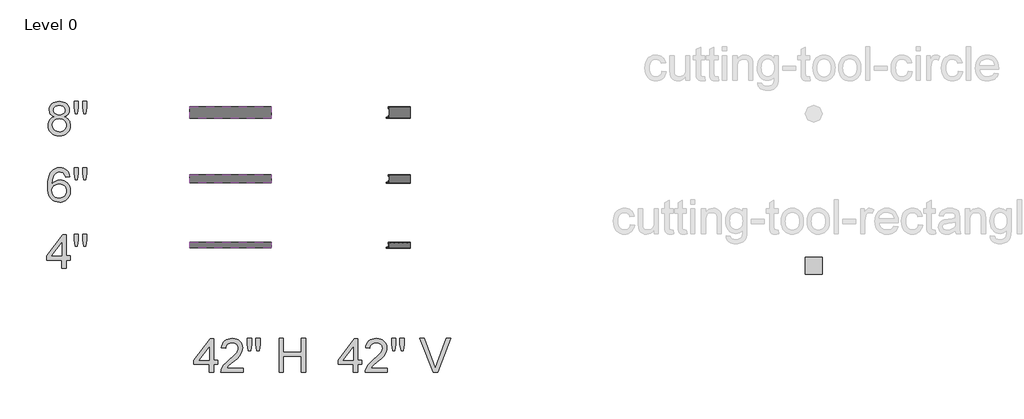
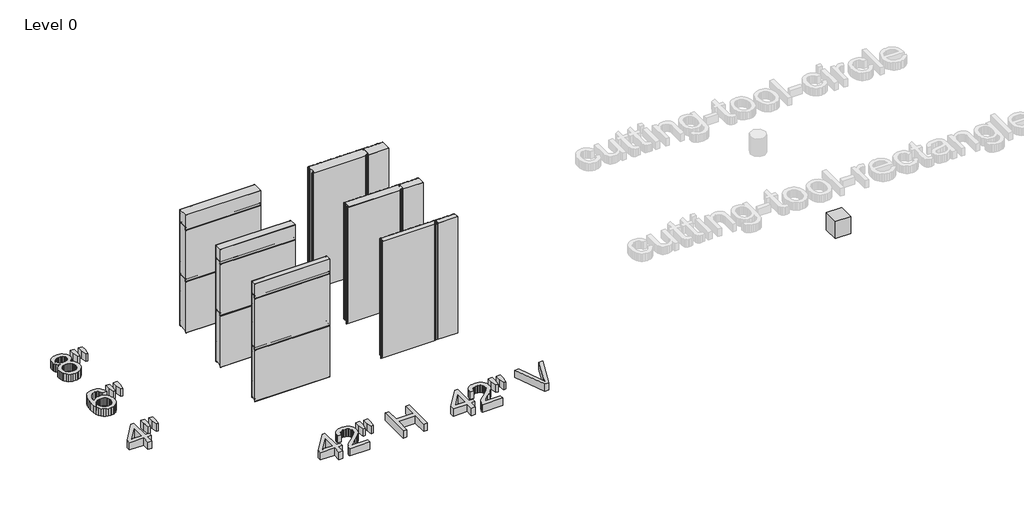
# One storey, part 1 of 3: 15 plates, 6 proxies.
"""IFC4 building model written with IfcOpenShell, lengths in millimetres."""

from ifc_helpers import new_model, si_unit, origin, origin_with_axes, place, context, project, spatial, polyline, outline, extrude, transform, mapped, element, save
from components import kingspan_ks_cutting_tool_rectangle_cutting_tool_rectangle_f435e5aa, plate_0a17265c, plate_69485673, plate_2533484a, plate_4c4554a8, plate_1017e4c0, plate_c80c6800, plate_48e6c5c1, plate_63041f73, plate_7318fa28, plate_f24b289d, plate_0e0b5b4f, plate_6cb468a7, plate_d381e52e, plate_027f6629, plate_cf5771db

model = new_model("IFC4")

# Units and contexts
model_context = context("Model", 3, world=origin())
ifc_project = project(units=[si_unit("LENGTHUNIT", "METRE", prefix="MILLI")], contexts=[model_context])

# Site, building, storey
site = spatial("IfcSite", under=ifc_project)
building = spatial("IfcBuilding", under=site)
storey = spatial("IfcBuildingStorey", under=building, Name="Level 0", Elevation=0.0)

# Proxies
placement = place(None, origin())
element("IfcBuildingElementProxy", 1, Name="24\" Arial", ObjectType="24\" Arial", at=placement, inside=storey, context=model_context, shape_type="SweptSolid", body=[
    extrude(outline(polyline([(-11480.8304674, 9099.5393595), (-11480.8304674, 9242.3051848), (-11756.8443964, 9242.3051848), (-11756.8443964, 9318.4469584), (-11461.795024, 9699.1558259), (-11404.6886939, 9699.1558259), (-11404.6886939, 9318.4469584), (-11328.5469203, 9318.4469584), (-11328.5469203, 9242.3051848), (-11404.6886939, 9242.3051848), (-11404.6886939, 9099.5393595), (-11480.8304674, 9099.5393595)]), holes=[polyline([(-11480.8304674, 9318.4469584), (-11480.8304674, 9553.7131414), (-11663.1543235, 9318.4469584), (-11480.8304674, 9318.4469584)])]), origin_with_axes(), (0.0, 0.0, 1.0), 152.4),
    extrude(outline(polyline([(-11243.3335683, 9489.7659488), (-11261.9228685, 9607.3990403), (-11261.9228685, 9708.6735476), (-11185.781095, 9708.6735476), (-11185.781095, 9607.3990403), (-11202.437108, 9489.7659488), (-11243.3335683, 9489.7659488)])), origin_with_axes(), (0.0, 0.0, 1.0), 152.4),
    extrude(outline(polyline([(-11091.4961645, 9489.7659488), (-11109.6393215, 9607.3990403), (-11109.6393215, 9708.6735476), (-11033.497548, 9708.6735476), (-11033.497548, 9607.3990403), (-11051.3432761, 9489.7659488), (-11091.4961645, 9489.7659488)])), origin_with_axes(), (0.0, 0.0, 1.0), 152.4),
])
element("IfcBuildingElementProxy", 2, Name="24\" Arial", ObjectType="24\" Arial", at=placement, inside=storey, context=model_context, shape_type="SweptSolid", body=[
    extrude(outline(polyline([(-8830.6863907, 7226.0033745), (-8830.6863907, 7368.7691999), (-9106.7003197, 7368.7691999), (-9106.7003197, 7444.9109734), (-8811.6509473, 7825.619841), (-8754.5446171, 7825.619841), (-8754.5446171, 7444.9109734), (-8678.4028436, 7444.9109734), (-8678.4028436, 7368.7691999), (-8754.5446171, 7368.7691999), (-8754.5446171, 7226.0033745), (-8830.6863907, 7226.0033745)]), holes=[polyline([(-8830.6863907, 7444.9109734), (-8830.6863907, 7680.1771564), (-9013.0102468, 7444.9109734), (-8830.6863907, 7444.9109734)])]), origin_with_axes(), (0.0, 0.0, 1.0), 152.4),
    extrude(outline(polyline([(-8221.5522025, 7302.1451481), (-8221.5522025, 7226.0033745), (-8621.2965135, 7226.0033745), (-8619.6234765, 7252.8091454), (-8613.1172214, 7278.4995582), (-8594.3420282, 7319.5261437), (-8566.8670426, 7359.3258354), (-8527.1231188, 7400.9844571), (-8471.5411113, 7447.5878326), (-8389.3764045, 7520.5694251), (-8340.0775804, 7574.441217), (-8325.6987567, 7596.4509484), (-8315.4281684, 7618.163251), (-8309.2658154, 7639.5781248), (-8307.2116977, 7660.6955698), (-8309.1496323, 7680.5628844), (-8314.9634359, 7698.8222245), (-8324.6531086, 7715.4735901), (-8338.2186504, 7730.5169813), (-8354.9071946, 7742.9764597), (-8373.9658747, 7751.8760872), (-8395.3946904, 7757.2158637), (-8419.193642, 7758.9957892), (-8444.2659606, 7757.2576896), (-8466.6893039, 7752.0433909), (-8486.463672, 7743.3528931), (-8503.5890648, 7731.1861961), (-8517.4427407, 7715.9522646), (-8527.4019583, 7698.0600632), (-8533.4667175, 7677.5095918), (-8535.6370183, 7654.3008506), (-8611.7787918, 7663.8185723), (-8605.2307108, 7703.1256475), (-8593.3196167, 7737.4693796), (-8576.0455095, 7766.8497685), (-8553.4083892, 7791.2668143), (-8525.9287563, 7810.4602667), (-8494.127111, 7824.1698756), (-8458.0034534, 7832.3956409), (-8417.5577836, 7835.1375627), (-8376.7496224, 7832.0889174), (-8340.4307771, 7822.9429818), (-8308.6012479, 7807.6997556), (-8281.2610347, 7786.359239), (-8259.3024238, 7760.5015225), (-8243.6177018, 7731.7066965), (-8234.2068686, 7699.9747611), (-8231.0699242, 7665.3057163), (-8234.4531768, 7628.8892772), (-8244.6029347, 7593.1048744), (-8262.6159666, 7556.7070247), (-8289.5890412, 7518.4502449), (-8332.5860925, 7472.7763344), (-8398.6710546, 7414.1270923), (-8486.263837, 7340.8852496), (-8520.6168637, 7302.1451481), (-8221.5522025, 7302.1451481)])), origin_with_axes(), (0.0, 0.0, 1.0), 152.4),
    extrude(outline(polyline([(-8126.8211288, 7616.2299638), (-8145.410429, 7733.8630553), (-8145.410429, 7835.1375627), (-8069.2686555, 7835.1375627), (-8069.2686555, 7733.8630553), (-8085.9246684, 7616.2299638), (-8126.8211288, 7616.2299638)])), origin_with_axes(), (0.0, 0.0, 1.0), 152.4),
    extrude(outline(polyline([(-7974.983725, 7616.2299638), (-7993.126882, 7733.8630553), (-7993.126882, 7835.1375627), (-7916.9851084, 7835.1375627), (-7916.9851084, 7733.8630553), (-7934.8308366, 7616.2299638), (-7974.983725, 7616.2299638)])), origin_with_axes(), (0.0, 0.0, 1.0), 152.4),
    extrude(outline(polyline([(-7574.3471276, 7226.0033745), (-7574.3471276, 7835.1375627), (-7498.2053541, 7835.1375627), (-7498.2053541, 7587.6767987), (-7174.6028167, 7587.6767987), (-7174.6028167, 7835.1375627), (-7098.4610431, 7835.1375627), (-7098.4610431, 7226.0033745), (-7174.6028167, 7226.0033745), (-7174.6028167, 7511.5350252), (-7498.2053541, 7511.5350252), (-7498.2053541, 7226.0033745), (-7574.3471276, 7226.0033745)])), origin_with_axes(), (0.0, 0.0, 1.0), 152.4),
])
element("IfcBuildingElementProxy", 3, Name="24\" Arial", ObjectType="24\" Arial", at=placement, inside=storey, context=model_context, shape_type="SweptSolid", body=[
    extrude(outline(polyline([(-6239.8863907, 7226.0033745), (-6239.8863907, 7368.7691999), (-6515.9003197, 7368.7691999), (-6515.9003197, 7444.9109734), (-6220.8509473, 7825.619841), (-6163.7446171, 7825.619841), (-6163.7446171, 7444.9109734), (-6087.6028436, 7444.9109734), (-6087.6028436, 7368.7691999), (-6163.7446171, 7368.7691999), (-6163.7446171, 7226.0033745), (-6239.8863907, 7226.0033745)]), holes=[polyline([(-6239.8863907, 7444.9109734), (-6239.8863907, 7680.1771564), (-6422.2102468, 7444.9109734), (-6239.8863907, 7444.9109734)])]), origin_with_axes(), (0.0, 0.0, 1.0), 152.4),
    extrude(outline(polyline([(-5630.7522025, 7302.1451481), (-5630.7522025, 7226.0033745), (-6030.4965135, 7226.0033745), (-6028.8234765, 7252.8091454), (-6022.3172214, 7278.4995582), (-6003.5420282, 7319.5261437), (-5976.0670426, 7359.3258354), (-5936.3231188, 7400.9844571), (-5880.7411113, 7447.5878326), (-5798.5764045, 7520.5694251), (-5749.2775804, 7574.441217), (-5734.8987567, 7596.4509484), (-5724.6281684, 7618.163251), (-5718.4658154, 7639.5781248), (-5716.4116977, 7660.6955698), (-5718.3496323, 7680.5628844), (-5724.1634359, 7698.8222245), (-5733.8531086, 7715.4735901), (-5747.4186504, 7730.5169813), (-5764.1071946, 7742.9764597), (-5783.1658747, 7751.8760872), (-5804.5946904, 7757.2158637), (-5828.393642, 7758.9957892), (-5853.4659606, 7757.2576896), (-5875.8893039, 7752.0433909), (-5895.663672, 7743.3528931), (-5912.7890648, 7731.1861961), (-5926.6427407, 7715.9522646), (-5936.6019583, 7698.0600632), (-5942.6667175, 7677.5095918), (-5944.8370183, 7654.3008506), (-6020.9787918, 7663.8185723), (-6014.4307108, 7703.1256475), (-6002.5196167, 7737.4693796), (-5985.2455095, 7766.8497685), (-5962.6083892, 7791.2668143), (-5935.1287563, 7810.4602667), (-5903.327111, 7824.1698756), (-5867.2034534, 7832.3956409), (-5826.7577836, 7835.1375627), (-5785.9496224, 7832.0889174), (-5749.6307771, 7822.9429818), (-5717.8012479, 7807.6997556), (-5690.4610347, 7786.359239), (-5668.5024238, 7760.5015225), (-5652.8177018, 7731.7066965), (-5643.4068686, 7699.9747611), (-5640.2699242, 7665.3057163), (-5643.6531768, 7628.8892772), (-5653.8029347, 7593.1048744), (-5671.8159666, 7556.7070247), (-5698.7890412, 7518.4502449), (-5741.7860925, 7472.7763344), (-5807.8710546, 7414.1270923), (-5895.463837, 7340.8852496), (-5929.8168637, 7302.1451481), (-5630.7522025, 7302.1451481)])), origin_with_axes(), (0.0, 0.0, 1.0), 152.4),
    extrude(outline(polyline([(-5536.0211288, 7616.2299638), (-5554.610429, 7733.8630553), (-5554.610429, 7835.1375627), (-5478.4686555, 7835.1375627), (-5478.4686555, 7733.8630553), (-5495.1246684, 7616.2299638), (-5536.0211288, 7616.2299638)])), origin_with_axes(), (0.0, 0.0, 1.0), 152.4),
    extrude(outline(polyline([(-5384.183725, 7616.2299638), (-5402.326882, 7733.8630553), (-5402.326882, 7835.1375627), (-5326.1851084, 7835.1375627), (-5326.1851084, 7733.8630553), (-5344.0308366, 7616.2299638), (-5384.183725, 7616.2299638)])), origin_with_axes(), (0.0, 0.0, 1.0), 152.4),
    extrude(outline(polyline([(-4803.6027019, 7226.0033745), (-5046.0071762, 7835.1375627), (-4964.5116842, 7835.1375627), (-4802.2642723, 7396.2813641), (-4769.3983896, 7297.3862872), (-4736.9786501, 7396.2813641), (-4574.285095, 7835.1375627), (-4492.789603, 7835.1375627), (-4724.9327836, 7226.0033745), (-4803.6027019, 7226.0033745)])), origin_with_axes(), (0.0, 0.0, 1.0), 152.4),
])
element("IfcBuildingElementProxy", 4, Name="24\" Arial", ObjectType="24\" Arial", at=placement, inside=storey, context=model_context, shape_type="SweptSolid", body=[
    extrude(outline(polyline([(-11338.064642, 10741.6722789), (-11414.2064155, 10732.1545572), (-11426.4753537, 10769.8908366), (-11443.0570094, 10795.6556066), (-11459.4248882, 10809.5139299), (-11477.5959291, 10819.4127322), (-11497.5701322, 10825.3520136), (-11519.3474973, 10827.3317741), (-11554.7415249, 10822.7216277), (-11588.0535508, 10808.8911883), (-11616.6624838, 10779.761755), (-11640.0292341, 10739.6646345), (-11649.1612278, 10714.0904048), (-11655.8115499, 10682.9486797), (-11661.6671795, 10603.9627432), (-11631.1249593, 10639.5984316), (-11594.5226272, 10664.7125762), (-11553.9050064, 10679.6026056), (-11511.3169197, 10684.5659488), (-11474.7331769, 10681.1734015), (-11440.9750078, 10670.9957596), (-11410.0424123, 10654.0330232), (-11381.9353904, 10630.2851923), (-11358.5779348, 10601.1650535), (-11341.8940379, 10568.0853939), (-11331.8836997, 10531.0462133), (-11328.5469203, 10490.0475117), (-11330.1177162, 10462.2890393), (-11334.8301038, 10435.5250943), (-11342.6840831, 10409.755677), (-11353.6796542, 10384.9807872), (-11367.4264417, 10362.1252426), (-11383.5340703, 10342.1138609), (-11402.00254, 10324.9466422), (-11422.8318508, 10310.6235865), (-11445.5758596, 10299.3352339), (-11469.7884231, 10291.272125), (-11495.4695413, 10286.4342596), (-11522.6192142, 10284.8216378), (-11568.0096379, 10289.0971768), (-11609.0036921, 10301.923794), (-11645.6013768, 10323.3014892), (-11677.802692, 10353.2302625), (-11704.0554312, 10392.9741862), (-11722.8073878, 10443.7973329), (-11734.0585617, 10505.6997025), (-11737.808953, 10578.681295), (-11733.6449498, 10660.5020997), (-11721.15294, 10730.3328058), (-11700.3329238, 10788.1734133), (-11686.7999133, 10812.5974301), (-11671.1849012, 10834.0239222), (-11639.5923855, 10864.4081333), (-11602.9621695, 10886.1111413), (-11561.2942532, 10899.132946), (-11514.5886365, 10903.4735476), (-11479.5199217, 10900.7873938), (-11447.7786917, 10892.7289321), (-11419.3649463, 10879.2981628), (-11394.2786858, 10860.4950856), (-11373.1984194, 10836.951737), (-11356.8026566, 10809.3001529), (-11345.0913975, 10777.5403336), (-11338.064642, 10741.6722789)]), holes=[polyline([(-11661.6671795, 10491.237227), (-11657.2615153, 10457.4976471), (-11644.0445229, 10425.2823899), (-11623.5219355, 10397.5843327), (-11597.1994865, 10377.3963527), (-11565.4303725, 10365.0716467), (-11528.5677902, 10360.9634113), (-11502.1012741, 10363.0918862), (-11478.3209119, 10369.4773108), (-11457.2267035, 10380.1196852), (-11438.818649, 10395.0190092), (-11423.8867936, 10413.5711308), (-11413.2211826, 10435.1718976), (-11406.8218161, 10459.8213097), (-11404.6886939, 10487.5193669), (-11406.7939321, 10514.1345974), (-11413.1096468, 10537.7662453), (-11423.6358381, 10558.4143105), (-11438.3725058, 10576.078793), (-11456.8363282, 10590.2298977), (-11478.5439835, 10600.3378297), (-11503.4954716, 10606.4025889), (-11531.6907927, 10608.4241753), (-11557.8041121, 10606.4025889), (-11581.8633138, 10600.3378297), (-11603.8683979, 10590.2298977), (-11623.8193643, 10576.078793), (-11640.3777835, 10558.6466767), (-11652.2052257, 10538.6957103), (-11659.301691, 10516.2258937), (-11661.6671795, 10491.237227)])]), origin_with_axes(), (0.0, 0.0, 1.0), 152.4),
    extrude(outline(polyline([(-11243.3335683, 10684.5659488), (-11261.9228685, 10802.1990403), (-11261.9228685, 10903.4735476), (-11185.781095, 10903.4735476), (-11185.781095, 10802.1990403), (-11202.437108, 10684.5659488), (-11243.3335683, 10684.5659488)])), origin_with_axes(), (0.0, 0.0, 1.0), 152.4),
    extrude(outline(polyline([(-11091.4961645, 10684.5659488), (-11109.6393215, 10802.1990403), (-11109.6393215, 10903.4735476), (-11033.497548, 10903.4735476), (-11033.497548, 10802.1990403), (-11051.3432761, 10684.5659488), (-11091.4961645, 10684.5659488)])), origin_with_axes(), (0.0, 0.0, 1.0), 152.4),
])
element("IfcBuildingElementProxy", 5, Name="24\" Arial", ObjectType="24\" Arial", at=placement, inside=storey, context=model_context, shape_type="SweptSolid", body=[
    extrude(outline(polyline([(-11617.3502879, 11821.2374755), (-11658.1166231, 11841.3139197), (-11673.9407649, 11854.029001), (-11686.7255561, 11868.5286551), (-11696.5825325, 11884.6734623), (-11703.62323, 11902.3240029), (-11709.2557879, 11942.1422838), (-11706.1885534, 11973.1957098), (-11696.9868498, 12001.665223), (-11681.6506772, 12027.5508235), (-11660.1800355, 12050.8525113), (-11633.6066309, 12070.1110262), (-11602.9621695, 12083.8671084), (-11568.2466515, 12092.1207576), (-11529.4600766, 12094.8719741), (-11490.4876088, 12092.0556951), (-11455.5118405, 12083.6068582), (-11424.5327718, 12069.5254633), (-11397.5504026, 12049.8115104), (-11375.6893856, 12026.0543848), (-11360.0743734, 11999.8434716), (-11350.7053662, 11971.1787707), (-11347.5823637, 11940.0602822), (-11353.1405645, 11901.5246629), (-11369.8151667, 11868.3055835), (-11382.3675917, 11853.9035232), (-11397.7920635, 11841.2581518), (-11437.2571478, 11821.2374755), (-11412.2313024, 11810.5904538), (-11390.393522, 11797.0899746), (-11371.7438066, 11780.7360377), (-11356.2821562, 11761.5286433), (-11344.1479905, 11739.8953452), (-11335.4807293, 11716.2636974), (-11330.2803726, 11690.6336998), (-11328.5469203, 11663.0053524), (-11331.9859409, 11625.0274121), (-11342.3030025, 11590.2096529), (-11359.4981051, 11558.5520747), (-11383.5712489, 11530.0546775), (-11413.2583612, 11506.5020342), (-11447.2953699, 11489.6787176), (-11485.6822747, 11479.5847276), (-11528.4190758, 11476.2200642), (-11571.1558769, 11479.5986695), (-11609.5427818, 11489.7344855), (-11643.5797904, 11506.627512), (-11673.2669028, 11530.2777491), (-11697.3400465, 11558.9749813), (-11714.5351492, 11591.0089928), (-11724.8522108, 11626.3797837), (-11728.2912313, 11665.087354), (-11726.4880692, 11693.9751265), (-11721.0785828, 11720.4091113), (-11712.0627723, 11744.3893086), (-11699.4406374, 11765.9157182), (-11683.4910179, 11784.5979648), (-11664.4927531, 11800.0456733), (-11642.4458431, 11812.2588435), (-11617.3502879, 11821.2374755)]), holes=[polyline([(-11633.1140144, 11939.9115678), (-11631.4270354, 11922.4562149), (-11626.3660984, 11906.6738991), (-11617.9312035, 11892.5646203), (-11606.1223506, 11880.1283784), (-11591.088254, 11869.9786205), (-11572.9776283, 11862.7287935), (-11551.7904735, 11858.3788972), (-11527.5267894, 11856.9289318), (-11503.8626103, 11858.3696026), (-11483.1355406, 11862.6916149), (-11465.3455803, 11869.8949687), (-11450.4927295, 11879.979664), (-11438.7814704, 11892.1556557), (-11430.4162853, 11905.6328983), (-11425.3971743, 11920.4113919), (-11423.7241372, 11936.4911366), (-11425.4529422, 11953.1982701), (-11430.6393569, 11968.5205008), (-11439.2833815, 11982.4578286), (-11451.3850159, 11995.0102535), (-11466.5724741, 12005.3877303), (-11484.4739702, 12012.8002138), (-11505.0895041, 12017.2477039), (-11528.4190758, 12018.7302005), (-11551.9298932, 12017.2802351), (-11572.6430209, 12012.9303389), (-11590.558459, 12005.6805118), (-11605.6762074, 11995.5307539), (-11617.6802479, 11983.3547623), (-11626.2545626, 11970.0262341), (-11631.3991515, 11955.5451693), (-11633.1140144, 11939.9115678)]), polyline([(-11652.1494578, 11667.7642132), (-11648.9706875, 11638.6347799), (-11639.4343765, 11610.4348115), (-11621.8303092, 11585.8411674), (-11594.44827, 11567.5307067), (-11561.6567445, 11556.154055), (-11527.8242182, 11552.3618378), (-11500.2934647, 11554.3555402), (-11475.9972493, 11560.3366475), (-11454.9355722, 11570.3051598), (-11437.1084334, 11584.2610769), (-11422.9247973, 11601.2935231), (-11412.7936287, 11620.4916229), (-11406.7149276, 11641.8553761), (-11404.6886939, 11665.3847828), (-11406.7799901, 11689.2906228), (-11413.0538789, 11711.0401041), (-11423.5103603, 11730.6332264), (-11438.1494342, 11748.06999), (-11456.4598948, 11762.3837511), (-11477.9305365, 11772.6078662), (-11502.5613593, 11778.7423353), (-11530.352363, 11780.7871583), (-11557.4787993, 11778.7702192), (-11581.4543492, 11772.719402), (-11602.2790127, 11762.6347067), (-11619.9527899, 11748.5161332), (-11634.0388321, 11731.3675038), (-11644.1002908, 11712.1926407), (-11650.137166, 11690.9915438), (-11652.1494578, 11667.7642132)])]), origin_with_axes(), (0.0, 0.0, 1.0), 152.4),
    extrude(outline(polyline([(-11243.3335683, 11875.9643752), (-11261.9228685, 11993.5974667), (-11261.9228685, 12094.8719741), (-11185.781095, 12094.8719741), (-11185.781095, 11993.5974667), (-11202.437108, 11875.9643752), (-11243.3335683, 11875.9643752)])), origin_with_axes(), (0.0, 0.0, 1.0), 152.4),
    extrude(outline(polyline([(-11091.4961645, 11875.9643752), (-11109.6393215, 11993.5974667), (-11109.6393215, 12094.8719741), (-11033.497548, 12094.8719741), (-11033.497548, 11993.5974667), (-11051.3432761, 11875.9643752), (-11091.4961645, 11875.9643752)])), origin_with_axes(), (0.0, 0.0, 1.0), 152.4),
])
kingspan_ks_cutting_tool_rectangle_cutting_tool_rectangle_shape = kingspan_ks_cutting_tool_rectangle_cutting_tool_rectangle_f435e5aa(model_context)
element("IfcBuildingElementProxy", 6, Name="kingspan-ks-cutting-tool-rectangle : cutting-tool-rectangle", ObjectType="kingspan-ks-cutting-tool-rectangle : cutting-tool-rectangle", at=placement, inside=storey, context=model_context, shape_type="MappedRepresentation", body=[
    mapped(kingspan_ks_cutting_tool_rectangle_cutting_tool_rectangle_shape, transform((2037.6859776, 9137.6378737, 0.0), x_axis=(1.0, 0.0, 0.0), y_axis=(0.0, 1.0, 0.0), z_axis=(0.0, 0.0, 1.0))),
])

# Plates
plate_shape = plate_0a17265c(model_context)
element("IfcPlate", 7, ObjectType="KIP-42-KRHF-R19-CP-Hz-FL_SL : Hz 4\"", at=placement, inside=storey, context=model_context, shape_type="MappedRepresentation", body=[
    mapped(plate_shape, transform((-8448.7250935, 9562.4222907, 0.0), x_axis=(1.0, 0.0, 0.0), y_axis=(0.0, 1.0, 0.0), z_axis=(0.0, 0.0, 1.0))),
])
element("IfcPlate", 8, ObjectType="KIP-42-KRHF-R19-CP-Hz-FL_SL : Hz 4\"", at=placement, inside=storey, context=model_context, shape_type="MappedRepresentation", body=[
    mapped(plate_shape, transform((-8448.7250935, 9562.4222907, 1066.8), x_axis=(1.0, 0.0, 0.0), y_axis=(0.0, 1.0, 0.0), z_axis=(0.0, 0.0, 1.0))),
])
plate_2_shape = plate_69485673(model_context)
element("IfcPlate", 9, ObjectType="KIP-42-KRHF-R19-CP-Hz-FL_SL : Hz 4\"", at=placement, inside=storey, context=model_context, shape_type="MappedRepresentation", body=[
    mapped(plate_2_shape, transform((-8448.7250935, 9562.4222907, 2133.6), x_axis=(1.0, 0.0, 0.0), y_axis=(0.0, 1.0, 0.0), z_axis=(0.0, 0.0, 1.0))),
])
plate_3_shape = plate_2533484a(model_context)
element("IfcPlate", 10, ObjectType="KIP-42-KRHF-R19-CP-Hz-FL_SL : Hz 6\"", at=placement, inside=storey, context=model_context, shape_type="MappedRepresentation", body=[
    mapped(plate_3_shape, transform((-8448.7250935, 10781.6222907, 0.0), x_axis=(1.0, 0.0, 0.0), y_axis=(0.0, 1.0, 0.0), z_axis=(0.0, 0.0, 1.0))),
])
element("IfcPlate", 11, ObjectType="KIP-42-KRHF-R19-CP-Hz-FL_SL : Hz 6\"", at=placement, inside=storey, context=model_context, shape_type="MappedRepresentation", body=[
    mapped(plate_3_shape, transform((-8448.7250935, 10781.6222907, 1066.8), x_axis=(1.0, 0.0, 0.0), y_axis=(0.0, 1.0, 0.0), z_axis=(0.0, 0.0, 1.0))),
])
plate_4_shape = plate_4c4554a8(model_context)
element("IfcPlate", 12, ObjectType="KIP-42-KRHF-R19-CP-Hz-FL_SL : Hz 6\"", at=placement, inside=storey, context=model_context, shape_type="MappedRepresentation", body=[
    mapped(plate_4_shape, transform((-8448.7250935, 10781.6222907, 2133.6), x_axis=(1.0, 0.0, 0.0), y_axis=(0.0, 1.0, 0.0), z_axis=(0.0, 0.0, 1.0))),
])
plate_5_shape = plate_1017e4c0(model_context)
element("IfcPlate", 13, ObjectType="KIP-42-KRHF-R19-CP-Hz-FL_SL : Hz 8\"", at=placement, inside=storey, context=model_context, shape_type="MappedRepresentation", body=[
    mapped(plate_5_shape, transform((-8448.7250935, 11999.4207172, 0.0), x_axis=(1.0, 0.0, 0.0), y_axis=(0.0, 1.0, 0.0), z_axis=(0.0, 0.0, 1.0))),
])
element("IfcPlate", 14, ObjectType="KIP-42-KRHF-R19-CP-Hz-FL_SL : Hz 8\"", at=placement, inside=storey, context=model_context, shape_type="MappedRepresentation", body=[
    mapped(plate_5_shape, transform((-8448.7250935, 11999.4207172, 1066.8), x_axis=(1.0, 0.0, 0.0), y_axis=(0.0, 1.0, 0.0), z_axis=(0.0, 0.0, 1.0))),
])
plate_6_shape = plate_c80c6800(model_context)
element("IfcPlate", 15, ObjectType="KIP-42-KRHF-R19-CP-Hz-FL_SL : Hz 8\"", at=placement, inside=storey, context=model_context, shape_type="MappedRepresentation", body=[
    mapped(plate_6_shape, transform((-8448.7250935, 11999.4207172, 2133.6), x_axis=(1.0, 0.0, 0.0), y_axis=(0.0, 1.0, 0.0), z_axis=(0.0, 0.0, 1.0))),
])
plate_7_shape = plate_48e6c5c1(model_context)
plate_8_shape = plate_63041f73(model_context)
element("IfcPlate", 16, ObjectType="KIP-42-KRHF-R19-CP-Vt-FL_SL : Vt 4\"", at=placement, inside=storey, context=model_context, shape_type="MappedRepresentation", body=[
    mapped(plate_7_shape, transform((-6145.5413834, 9561.0207172, 0.0), x_axis=(1.0, 0.0, 0.0), y_axis=(0.0, 1.0, 0.0), z_axis=(0.0, 0.0, 1.0))),
    mapped(plate_8_shape, transform((-6145.5413834, 9561.0207172, 0.0), x_axis=(1.0, 0.0, 0.0), y_axis=(0.0, 1.0, 0.0), z_axis=(0.0, 0.0, 1.0))),
])
plate_9_shape = plate_7318fa28(model_context)
element("IfcPlate", 17, ObjectType="KIP-42-KRHF-R19-CP-Vt-FL_SL : Vt 4\"", at=placement, inside=storey, context=model_context, shape_type="MappedRepresentation", body=[
    mapped(plate_9_shape, transform((-5415.5413834, 9561.0207172, 0.0), x_axis=(1.0, 0.0, 0.0), y_axis=(0.0, 1.0, 0.0), z_axis=(0.0, 0.0, 1.0))),
])
plate_10_shape = plate_f24b289d(model_context)
plate_11_shape = plate_0e0b5b4f(model_context)
element("IfcPlate", 18, ObjectType="KIP-42-KRHF-R19-CP-Vt-FL_SL : Vt 6\"", at=placement, inside=storey, context=model_context, shape_type="MappedRepresentation", body=[
    mapped(plate_10_shape, transform((-6145.5413834, 10780.2207172, 0.0), x_axis=(1.0, 0.0, 0.0), y_axis=(0.0, 1.0, 0.0), z_axis=(0.0, 0.0, 1.0))),
    mapped(plate_11_shape, transform((-6145.5413834, 10780.2207172, 0.0), x_axis=(1.0, 0.0, 0.0), y_axis=(0.0, 1.0, 0.0), z_axis=(0.0, 0.0, 1.0))),
])
plate_12_shape = plate_6cb468a7(model_context)
element("IfcPlate", 19, ObjectType="KIP-42-KRHF-R19-CP-Vt-FL_SL : Vt 6\"", at=placement, inside=storey, context=model_context, shape_type="MappedRepresentation", body=[
    mapped(plate_12_shape, transform((-5415.5413834, 10780.2207172, 0.0), x_axis=(1.0, 0.0, 0.0), y_axis=(0.0, 1.0, 0.0), z_axis=(0.0, 0.0, 1.0))),
])
plate_13_shape = plate_d381e52e(model_context)
plate_14_shape = plate_027f6629(model_context)
element("IfcPlate", 20, ObjectType="KIP-42-KRHF-R19-CP-Vt-FL_SL : Vt 8\"", at=placement, inside=storey, context=model_context, shape_type="MappedRepresentation", body=[
    mapped(plate_13_shape, transform((-6145.5413834, 11999.4207172, 0.0), x_axis=(1.0, 0.0, 0.0), y_axis=(0.0, 1.0, 0.0), z_axis=(0.0, 0.0, 1.0))),
    mapped(plate_14_shape, transform((-6145.5413834, 11999.4207172, 0.0), x_axis=(1.0, 0.0, 0.0), y_axis=(0.0, 1.0, 0.0), z_axis=(0.0, 0.0, 1.0))),
])
plate_15_shape = plate_cf5771db(model_context)
element("IfcPlate", 21, ObjectType="KIP-42-KRHF-R19-CP-Vt-FL_SL : Vt 8\"", at=placement, inside=storey, context=model_context, shape_type="MappedRepresentation", body=[
    mapped(plate_15_shape, transform((-5415.5413834, 11999.4207172, 0.0), x_axis=(1.0, 0.0, 0.0), y_axis=(0.0, 1.0, 0.0), z_axis=(0.0, 0.0, 1.0))),
])

save(model, "model.ifc")
